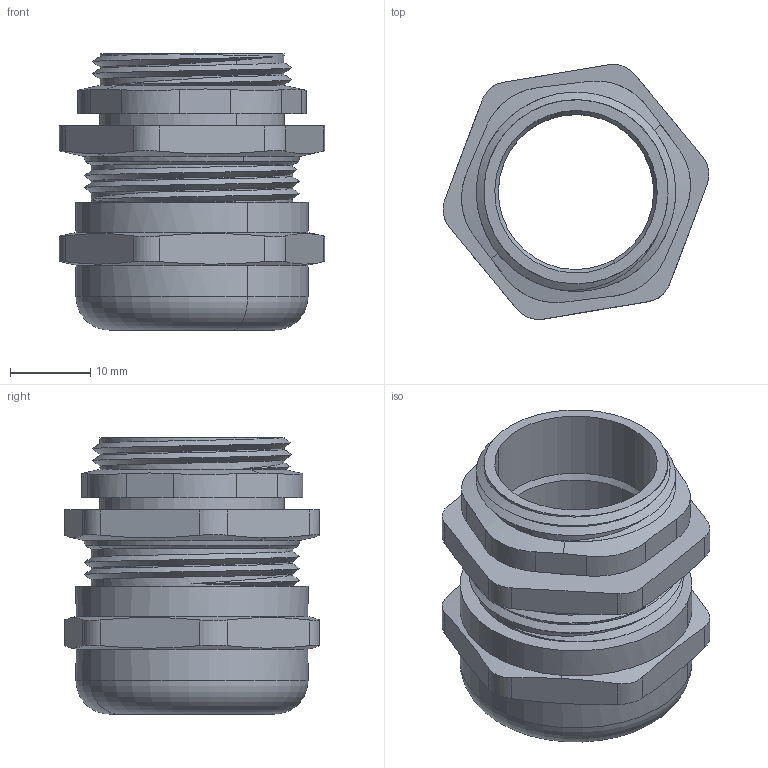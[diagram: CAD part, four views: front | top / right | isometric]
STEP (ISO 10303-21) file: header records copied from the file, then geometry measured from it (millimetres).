
FILE_DESCRIPTION(('CATIA V5 STEP Exchange'),'2;1');
FILE_NAME('C:\Users\Administrator\Desktop\m25-1.5+-1.5tong..stp','2023-07-10T07:48:11+00:00',('none'),('none'),'CATIA Version 5 Release 21 GA (IN-10)','CATIA V5 STEP AP203','none');
FILE_SCHEMA(('CONFIG_CONTROL_DESIGN'));
Length unit declared in the file: millimetre
Products named in the file (1): Part10
Bounding box: 33.19 x 31.88 x 34.5 mm (x, y, z)
Volume: 10595.1 mm3; surface area: 7038.2 mm2
Topology: 1 solids, 1 shells, 86 faces, 233 edges, 159 vertices
Faces by surface type: cylinder 42, plane 24, cone 14, bspline 4, torus 2
Entity records: 4183 total; most frequent: CARTESIAN_POINT 2293, ORIENTED_EDGE 466, DIRECTION 241, EDGE_CURVE 233, VERTEX_POINT 152, AXIS2_PLACEMENT_3D 108, B_SPLINE_CURVE_WITH_KNOTS 102, EDGE_LOOP 91
